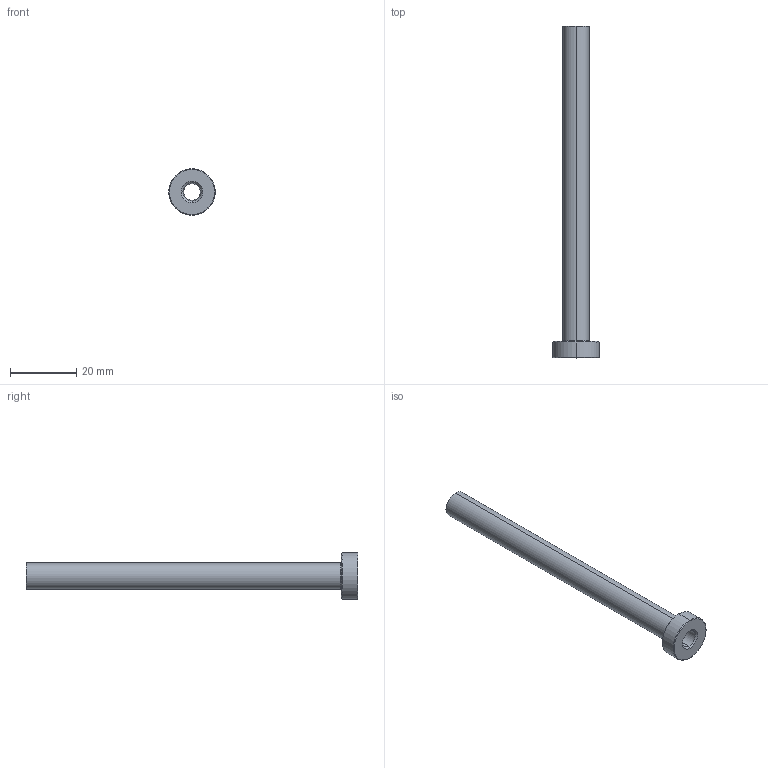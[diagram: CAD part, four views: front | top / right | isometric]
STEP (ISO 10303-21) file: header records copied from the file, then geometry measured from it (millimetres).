
FILE_DESCRIPTION (( 'STEP AP203' ), '1' );
FILE_NAME ('ESD05L100.step', '2022-02-05T04:13:52', ( 'Microsoft Corporation' ), ( 'MS' ), 'SwSTEP 2.0', 'SolidWorks 2019', '' );
FILE_SCHEMA (( 'CONFIG_CONTROL_DESIGN' ));
Length unit declared in the file: millimetre
Products named in the file (1): ESD05L100
Bounding box: 14 x 100 x 14 mm (x, y, z)
Volume: 3376.2 mm3; surface area: 4501.5 mm2
Topology: 1 solids, 1 shells, 21 faces, 42 edges, 24 vertices
Faces by surface type: cone 8, cylinder 8, plane 3, torus 2
Entity records: 627 total; most frequent: DIRECTION 112, CARTESIAN_POINT 88, ORIENTED_EDGE 84, AXIS2_PLACEMENT_3D 48, EDGE_CURVE 42, CIRCLE 26, VERTEX_POINT 24, EDGE_LOOP 24
